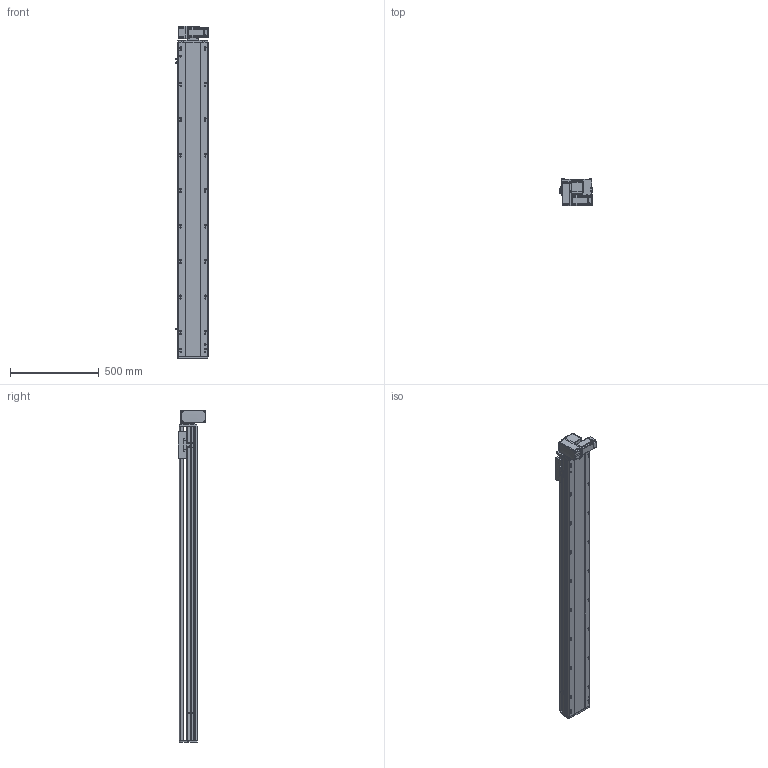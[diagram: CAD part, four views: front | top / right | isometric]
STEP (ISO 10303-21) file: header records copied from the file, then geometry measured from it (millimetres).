
FILE_DESCRIPTION (( 'STEP AP214' ), '1' );
FILE_NAME ('RTB17S-XX-1500-LM-M40-C4.STEP', '2025-12-11T06:29:24', ( '' ), ( '' ), 'SwSTEP 2.0', 'SolidWorks 2018', '' );
FILE_SCHEMA (( 'AUTOMOTIVE_DESIGN' ));
Length unit declared in the file: millimetre
Products named in the file (14): RTB17-R-011菁釱^RTB17S-XX-XX-LM-M40-C4; OMRON EE-SX672 传感器^RTB17S-XX-XX-LM-M40-C4; RTB17S-L-004佪裝蹟譫蟀諉釱^RTB17S-XX-XX-LM-M40-C4; RTB14-L-005P--轴承塑胶压盖^RTB17S-LM-皮带座装配-400W_RTB17S-XX-XX-LM-M40-C4; RTB17S-XX-1500-LM-M40-C4; RMP17S-L-014-T20--々湍釱^RTB17S-LM-々湍釱蚾饜-400W_RTB17S-XX-XX-LM-M40-C4; RTB17S-L-001耜醱啣^RTB17S-XX-XX-LM-M40-C4; RTB14-L-018P^RTB17S-LM-々湍釱蚾饜-400W_RTB17S-XX-XX-LM-M40-C4; RTB14-L-008-M20--萇儂啣^RTB17S-LM-々湍釱蚾饜-400W_RTB17S-XX-XX-LM-M40-C4; RTH13-BL-012覜茼え俋离^RTB17S-XX-XX-LM-M40-C4; RTB17S-L-007奻裔^RTB17S-XX-XX-LM-M40-C4; RTB14-L-017P^RTB17S-LM-々湍釱蚾饜-400W_RTB17S-XX-XX-LM-M40-C4; RTB17S-LM-々湍釱蚾饜-400W^RTB17S-XX-XX-LM-M40-C4; 400W侜督萇儂^RTB17S-XX-XX-LM-M40-C4
Assembly tree (16 placements, depth 3):
  RTB17S-XX-1500-LM-M40-C4
    RTB17-R-011菁釱^RTB17S-XX-XX-LM-M40-C4
    RTB17S-L-007奻裔^RTB17S-XX-XX-LM-M40-C4
    OMRON EE-SX672 传感器^RTB17S-XX-XX-LM-M40-C4  x3
    RTH13-BL-012覜茼え俋离^RTB17S-XX-XX-LM-M40-C4
    RTB17S-L-001耜醱啣^RTB17S-XX-XX-LM-M40-C4
    400W侜督萇儂^RTB17S-XX-XX-LM-M40-C4
    RTB17S-L-004佪裝蹟譫蟀諉釱^RTB17S-XX-XX-LM-M40-C4
    RTB17S-LM-々湍釱蚾饜-400W^RTB17S-XX-XX-LM-M40-C4
      RMP17S-L-014-T20--々湍釱^RTB17S-LM-々湍釱蚾饜-400W_RTB17S-XX-XX-LM-M40-C4
      RTB14-L-005P--轴承塑胶压盖^RTB17S-LM-皮带座装配-400W_RTB17S-XX-XX-LM-M40-C4
      RTB14-L-008-M20--萇儂啣^RTB17S-LM-々湍釱蚾饜-400W_RTB17S-XX-XX-LM-M40-C4
      RTB14-L-017P^RTB17S-LM-々湍釱蚾饜-400W_RTB17S-XX-XX-LM-M40-C4  x2
      RTB14-L-018P^RTB17S-LM-々湍釱蚾饜-400W_RTB17S-XX-XX-LM-M40-C4
Bounding box: 186 x 156.5 x 1872.5 mm (x, y, z)
Volume: 16449197.5 mm3; surface area: 1943609.8 mm2
Topology: 15 solids, 15 shells, 2253 faces, 6249 edges, 4077 vertices
Faces by surface type: plane 1074, cylinder 731, bspline 301, cone 139, torus 8
Entity records: 64937 total; most frequent: CARTESIAN_POINT 18254, ORIENTED_EDGE 9342, DIRECTION 8666, EDGE_CURVE 4671, VERTEX_POINT 3065, AXIS2_PLACEMENT_3D 2995, VECTOR 2676, LINE 2676
